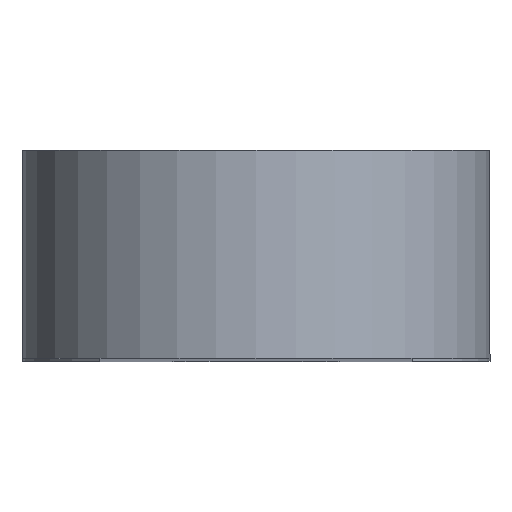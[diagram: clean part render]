
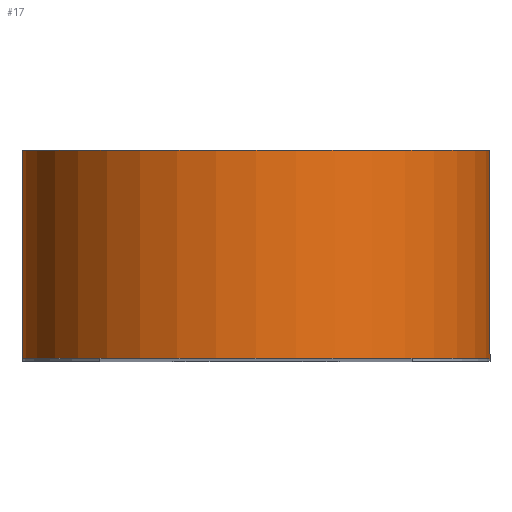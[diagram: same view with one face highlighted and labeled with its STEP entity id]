
A CAD part, top view. The second image highlights one B-rep face of the part: STEP entity #17.
In plain terms, the highlighted cylindrical face has radius 4.5 mm (diameter 9 mm), a partial arc.
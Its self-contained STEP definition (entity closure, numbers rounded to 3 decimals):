
#17 = ADVANCED_FACE('',(#18),#33,.T.);
#18 = FACE_BOUND('',#19,.F.);
#19 = EDGE_LOOP('',(#20,#56,#82,#115));
#20 = ORIENTED_EDGE('',*,*,#21,.F.);
#21 = EDGE_CURVE('',#22,#24,#26,.T.);
#22 = VERTEX_POINT('',#23);
#23 = CARTESIAN_POINT('',(-3.,7.,-3.354));
#24 = VERTEX_POINT('',#25);
#25 = CARTESIAN_POINT('',(3.,7.,-3.354));
#26 = SURFACE_CURVE('',#27,(#32,#44),.PCURVE_S1.);
#27 = CIRCLE('',#28,4.5);
#28 = AXIS2_PLACEMENT_3D('',#29,#30,#31);
#29 = CARTESIAN_POINT('',(0.,7.,0.));
#30 = DIRECTION('',(0.,1.,0.));
#31 = DIRECTION('',(-0.667,0.,-0.745));
#32 = PCURVE('',#33,#38);
#33 = CYLINDRICAL_SURFACE('',#34,4.5);
#34 = AXIS2_PLACEMENT_3D('',#35,#36,#37);
#35 = CARTESIAN_POINT('',(0.,7.,0.));
#36 = DIRECTION('',(0.,-1.,-0.));
#37 = DIRECTION('',(1.,0.,0.));
#38 = DEFINITIONAL_REPRESENTATION('',(#39),#43);
#39 = LINE('',#40,#41);
#40 = CARTESIAN_POINT('',(-2.301,0.));
#41 = VECTOR('',#42,1.);
#42 = DIRECTION('',(-1.,0.));
#43 = ( GEOMETRIC_REPRESENTATION_CONTEXT(2) 
PARAMETRIC_REPRESENTATION_CONTEXT() REPRESENTATION_CONTEXT('2D SPACE',''
  ) );
#44 = PCURVE('',#45,#50);
#45 = PLANE('',#46);
#46 = AXIS2_PLACEMENT_3D('',#47,#48,#49);
#47 = CARTESIAN_POINT('',(0.,7.,0.));
#48 = DIRECTION('',(0.,1.,0.));
#49 = DIRECTION('',(0.,-0.,1.));
#50 = DEFINITIONAL_REPRESENTATION('',(#51),#55);
#51 = CIRCLE('',#52,4.5);
#52 = AXIS2_PLACEMENT_2D('',#53,#54);
#53 = CARTESIAN_POINT('',(0.,0.));
#54 = DIRECTION('',(-0.745,-0.667));
#55 = ( GEOMETRIC_REPRESENTATION_CONTEXT(2) 
PARAMETRIC_REPRESENTATION_CONTEXT() REPRESENTATION_CONTEXT('2D SPACE',''
  ) );
#56 = ORIENTED_EDGE('',*,*,#57,.F.);
#57 = EDGE_CURVE('',#58,#22,#60,.T.);
#58 = VERTEX_POINT('',#59);
#59 = CARTESIAN_POINT('',(-3.,11.,-3.354));
#60 = SURFACE_CURVE('',#61,(#65,#71),.PCURVE_S1.);
#61 = LINE('',#62,#63);
#62 = CARTESIAN_POINT('',(-3.,7.,-3.354));
#63 = VECTOR('',#64,1.);
#64 = DIRECTION('',(0.,-1.,-0.));
#65 = PCURVE('',#33,#66);
#66 = DEFINITIONAL_REPRESENTATION('',(#67),#70);
#67 = B_SPLINE_CURVE_WITH_KNOTS('',1,(#68,#69),.UNSPECIFIED.,.F.,.F.,(2,
    2),(-4.,-0.),.PIECEWISE_BEZIER_KNOTS.);
#68 = CARTESIAN_POINT('',(-2.301,-4.));
#69 = CARTESIAN_POINT('',(-2.301,0.));
#70 = ( GEOMETRIC_REPRESENTATION_CONTEXT(2) 
PARAMETRIC_REPRESENTATION_CONTEXT() REPRESENTATION_CONTEXT('2D SPACE',''
  ) );
#71 = PCURVE('',#72,#77);
#72 = PLANE('',#73);
#73 = AXIS2_PLACEMENT_3D('',#74,#75,#76);
#74 = CARTESIAN_POINT('',(-3.,7.,-30.));
#75 = DIRECTION('',(1.,0.,0.));
#76 = DIRECTION('',(0.,0.,1.));
#77 = DEFINITIONAL_REPRESENTATION('',(#78),#81);
#78 = B_SPLINE_CURVE_WITH_KNOTS('',1,(#79,#80),.UNSPECIFIED.,.F.,.F.,(2,
    2),(-4.,0.),.PIECEWISE_BEZIER_KNOTS.);
#79 = CARTESIAN_POINT('',(26.646,-4.));
#80 = CARTESIAN_POINT('',(26.646,0.));
#81 = ( GEOMETRIC_REPRESENTATION_CONTEXT(2) 
PARAMETRIC_REPRESENTATION_CONTEXT() REPRESENTATION_CONTEXT('2D SPACE',''
  ) );
#82 = ORIENTED_EDGE('',*,*,#83,.F.);
#83 = EDGE_CURVE('',#84,#58,#86,.T.);
#84 = VERTEX_POINT('',#85);
#85 = CARTESIAN_POINT('',(3.,11.,-3.354));
#86 = SURFACE_CURVE('',#87,(#92,#99),.PCURVE_S1.);
#87 = CIRCLE('',#88,4.5);
#88 = AXIS2_PLACEMENT_3D('',#89,#90,#91);
#89 = CARTESIAN_POINT('',(0.,11.,0.));
#90 = DIRECTION('',(0.,-1.,0.));
#91 = DIRECTION('',(0.667,0.,-0.745));
#92 = PCURVE('',#33,#93);
#93 = DEFINITIONAL_REPRESENTATION('',(#94),#98);
#94 = LINE('',#95,#96);
#95 = CARTESIAN_POINT('',(-7.124,-4.));
#96 = VECTOR('',#97,1.);
#97 = DIRECTION('',(1.,-0.));
#98 = ( GEOMETRIC_REPRESENTATION_CONTEXT(2) 
PARAMETRIC_REPRESENTATION_CONTEXT() REPRESENTATION_CONTEXT('2D SPACE',''
  ) );
#99 = PCURVE('',#100,#105);
#100 = PLANE('',#101);
#101 = AXIS2_PLACEMENT_3D('',#102,#103,#104);
#102 = CARTESIAN_POINT('',(0.,11.,0.)
  );
#103 = DIRECTION('',(0.,1.,0.));
#104 = DIRECTION('',(0.,-0.,1.));
#105 = DEFINITIONAL_REPRESENTATION('',(#106),#114);
#106 = ( BOUNDED_CURVE() B_SPLINE_CURVE(2,(#107,#108,#109,#110,#111,#112
,#113),.UNSPECIFIED.,.T.,.F.) B_SPLINE_CURVE_WITH_KNOTS((1,2,2,2,2,1),(
    -2.094,0.,2.094,4.189,6.283,
8.378),.UNSPECIFIED.) CURVE() GEOMETRIC_REPRESENTATION_ITEM() 
RATIONAL_B_SPLINE_CURVE((1.,0.5,1.,0.5,1.,0.5,1.)) REPRESENTATION_ITEM(
  '') );
#107 = CARTESIAN_POINT('',(-3.354,3.));
#108 = CARTESIAN_POINT('',(1.842,8.809));
#109 = CARTESIAN_POINT('',(4.275,1.405));
#110 = CARTESIAN_POINT('',(6.708,-6.));
#111 = CARTESIAN_POINT('',(-0.921,-4.405));
#112 = CARTESIAN_POINT('',(-8.55,-2.809));
#113 = CARTESIAN_POINT('',(-3.354,3.));
#114 = ( GEOMETRIC_REPRESENTATION_CONTEXT(2) 
PARAMETRIC_REPRESENTATION_CONTEXT() REPRESENTATION_CONTEXT('2D SPACE',''
  ) );
#115 = ORIENTED_EDGE('',*,*,#116,.T.);
#116 = EDGE_CURVE('',#84,#24,#117,.T.);
#117 = SURFACE_CURVE('',#118,(#122,#128),.PCURVE_S1.);
#118 = LINE('',#119,#120);
#119 = CARTESIAN_POINT('',(3.,7.,-3.354));
#120 = VECTOR('',#121,1.);
#121 = DIRECTION('',(0.,-1.,-0.));
#122 = PCURVE('',#33,#123);
#123 = DEFINITIONAL_REPRESENTATION('',(#124),#127);
#124 = B_SPLINE_CURVE_WITH_KNOTS('',1,(#125,#126),.UNSPECIFIED.,.F.,.F.,
  (2,2),(-4.,0.),.PIECEWISE_BEZIER_KNOTS.);
#125 = CARTESIAN_POINT('',(-7.124,-4.));
#126 = CARTESIAN_POINT('',(-7.124,0.));
#127 = ( GEOMETRIC_REPRESENTATION_CONTEXT(2) 
PARAMETRIC_REPRESENTATION_CONTEXT() REPRESENTATION_CONTEXT('2D SPACE',''
  ) );
#128 = PCURVE('',#129,#134);
#129 = PLANE('',#130);
#130 = AXIS2_PLACEMENT_3D('',#131,#132,#133);
#131 = CARTESIAN_POINT('',(3.,7.,-30.));
#132 = DIRECTION('',(1.,0.,0.));
#133 = DIRECTION('',(0.,0.,1.));
#134 = DEFINITIONAL_REPRESENTATION('',(#135),#138);
#135 = B_SPLINE_CURVE_WITH_KNOTS('',1,(#136,#137),.UNSPECIFIED.,.F.,.F.,
  (2,2),(-4.,0.),.PIECEWISE_BEZIER_KNOTS.);
#136 = CARTESIAN_POINT('',(26.646,-4.));
#137 = CARTESIAN_POINT('',(26.646,0.));
#138 = ( GEOMETRIC_REPRESENTATION_CONTEXT(2) 
PARAMETRIC_REPRESENTATION_CONTEXT() REPRESENTATION_CONTEXT('2D SPACE',''
  ) );
